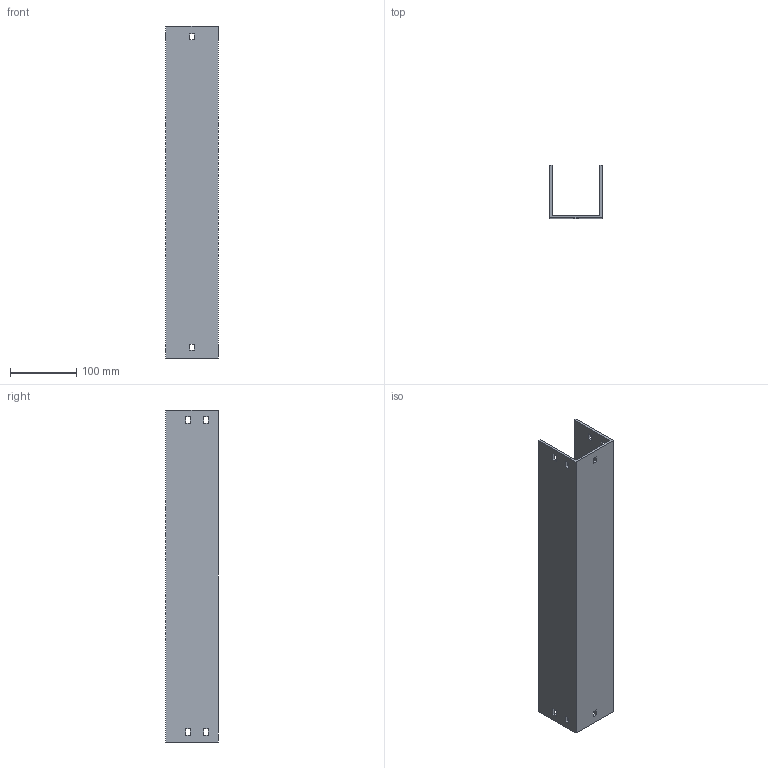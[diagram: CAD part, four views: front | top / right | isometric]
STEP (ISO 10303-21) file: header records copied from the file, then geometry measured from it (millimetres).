
FILE_DESCRIPTION (( 'STEP AP214' ), '1' );
FILE_NAME ('03F7C075.step', '2025-02-21T13:32:50', ( '' ), ( '' ), 'SwSTEP 2.0', 'SolidWorks 2023', '' );
FILE_SCHEMA (( 'AUTOMOTIVE_DESIGN' ));
Length unit declared in the file: millimetre
Products named in the file (1): 03F7C075
Bounding box: 79 x 79 x 500 mm (x, y, z)
Volume: 400130.5 mm3; surface area: 234925 mm2
Topology: 1 solids, 1 shells, 50 faces, 144 edges, 96 vertices
Faces by surface type: plane 50
Entity records: 1671 total; most frequent: CARTESIAN_POINT 291, ORIENTED_EDGE 288, DIRECTION 246, EDGE_CURVE 144, LINE 144, VECTOR 144, VERTEX_POINT 96, EDGE_LOOP 70
